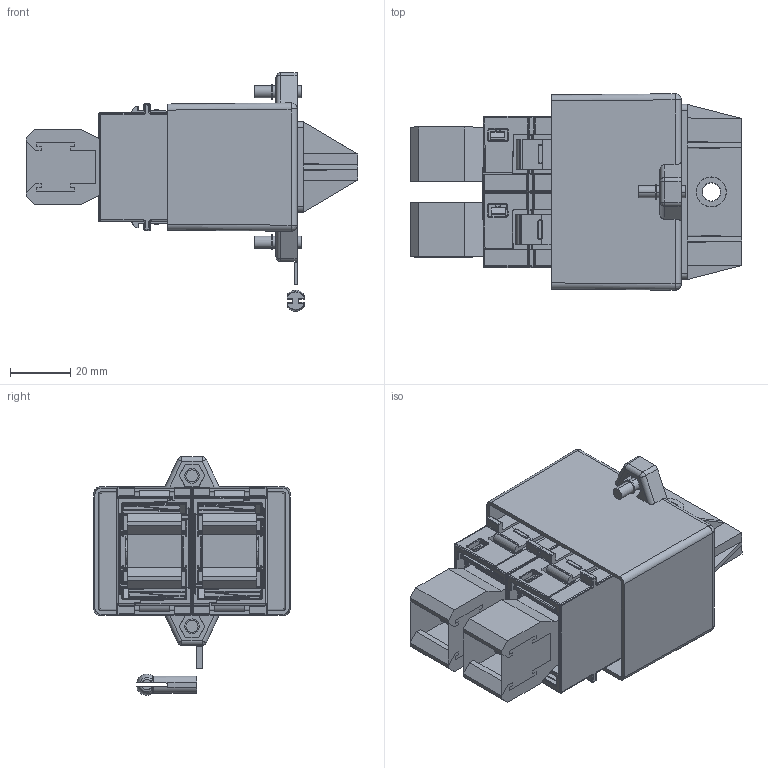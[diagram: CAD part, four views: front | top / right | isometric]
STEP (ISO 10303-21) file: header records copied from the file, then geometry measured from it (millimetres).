
FILE_DESCRIPTION(('CAx-IF Rec.Pracs.---Model Styling and Organization---1.2---2011-12-15','CAx-IF Rec.Pracs.---Geometric and Assembly Validation Properties---4.1---2014-06-16','CAx-IF Rec.Pracs.---PMI Polyline Presentation---2.0---2013-05-24'),'2;1');
FILE_NAME('R5M2WPC63B10.stp','2021-05-05T11:55:47+03:00',(''),(''),'STEP Interface 4.4 by CT CoreTechnologie','3D_Evolution4.4 by CT CoreTechnologie','');
FILE_SCHEMA(('AUTOMOTIVE_DESIGN { 1 0 10303 214 1 1 1 1 }'));
Length unit declared in the file: millimetre
Products named in the file (7): R5M2WPC63B10; ÒÏÀ.08.0042.00.00.0; GSRD10x18; ÒÏÀ.08.0044.00.00.0; ÒÏÀ.08.0043.00.00.0; M4 DIN 985 cl.5,0 Zinc_straight; M4x16 DIN 7985 PH cl4,8 Zinc_stright
Assembly tree (11 placements, depth 2):
  R5M2WPC63B10
    ÒÏÀ.08.0042.00.00.0
    GSRD10x18  x2
    ÒÏÀ.08.0044.00.00.0  x2
    ÒÏÀ.08.0043.00.00.0  x2
    M4 DIN 985 cl.5,0 Zinc_straight  x2
    M4x16 DIN 7985 PH cl4,8 Zinc_stright  x2
Bounding box: 109.6 x 64.96 x 79 mm (x, y, z)
Surface area: 84836.3 mm2 (no closed solid volume)
Topology: 0 solids, 12 shells, 3291 faces, 8704 edges, 5388 vertices
Faces by surface type: cylinder 1766, plane 848, bspline 677
Entity records: 68123 total; most frequent: CARTESIAN_POINT 24011, DIRECTION 9439, ORIENTED_EDGE 9210, EDGE_CURVE 4607, AXIS2_PLACEMENT_3D 3479, VERTEX_POINT 2867, VECTOR 2481, LINE 2481
